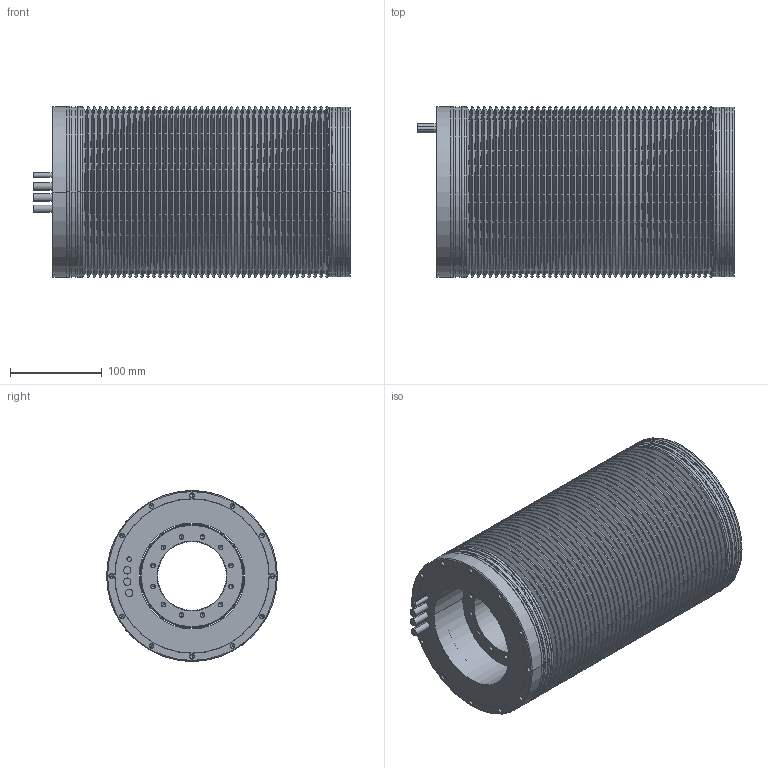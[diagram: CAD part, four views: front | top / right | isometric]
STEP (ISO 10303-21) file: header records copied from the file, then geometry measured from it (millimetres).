
FILE_DESCRIPTION((''),'2;1');
FILE_NAME('TK172-240','2017-10-26T',('stefanos'),(''),'CREO PARAMETRIC BY PTC INC, 2015480','CREO PARAMETRIC BY PTC INC, 2015480','');
FILE_SCHEMA(('CONFIG_CONTROL_DESIGN'));
Length unit declared in the file: millimetre
Products named in the file (1): TK172-240
Bounding box: 345 x 186 x 186 mm (x, y, z)
Volume: 6426539.3 mm3; surface area: 1162313.9 mm2
Topology: 9 solids, 9 shells, 637 faces, 1346 edges, 710 vertices
Faces by surface type: cylinder 308, cone 260, plane 37, torus 16, revolution 16
Entity records: 17676 total; most frequent: CARTESIAN_POINT 4045, DIRECTION 3174, ORIENTED_EDGE 2548, AXIS2_PLACEMENT_3D 1295, EDGE_CURVE 1274, VERTEX_POINT 710, EDGE_LOOP 710, CIRCLE 674
